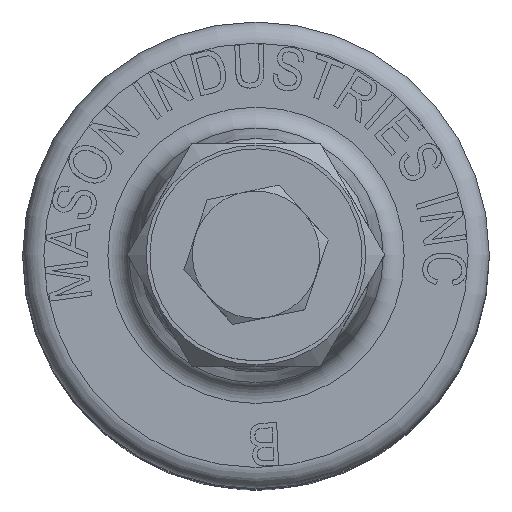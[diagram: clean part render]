
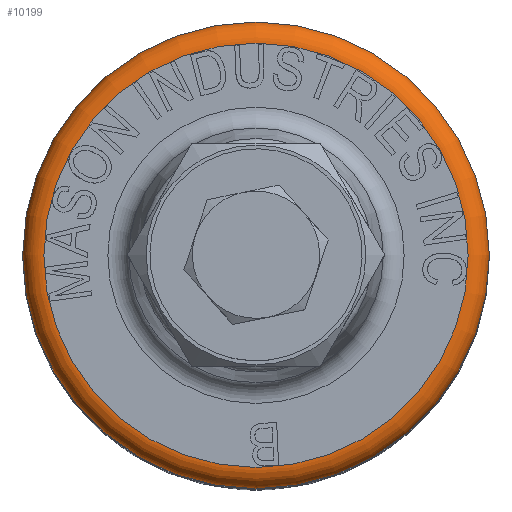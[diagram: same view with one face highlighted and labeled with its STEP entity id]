
A CAD part, top view. The second image highlights one B-rep face of the part: STEP entity #10199.
In plain terms, the highlighted toroidal (fillet/blend) face has major radius 31.75 mm and minor radius 3.175 mm.
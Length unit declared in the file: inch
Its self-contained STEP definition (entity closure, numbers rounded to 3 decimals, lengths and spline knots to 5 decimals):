
#122=TOROIDAL_SURFACE($,#10709,1.25,0.125);
#151=CIRCLE($,#10694,1.25);
#157=CIRCLE($,#10710,1.3743);
#476=FACE_OUTER_BOUND($,#1347,.T.);
#993=FACE_BOUND($,#1348,.T.);
#1347=EDGE_LOOP($,(#7947));
#1348=EDGE_LOOP($,(#7948));
#4596=VERTEX_POINT($,#16106);
#4602=VERTEX_POINT($,#16128);
#5807=EDGE_CURVE($,#4596,#4596,#151,.T.);
#5813=EDGE_CURVE($,#4602,#4602,#157,.T.);
#7947=ORIENTED_EDGE($,*,*,#5813,.F.);
#7948=ORIENTED_EDGE($,*,*,#5807,.T.);
#10199=ADVANCED_FACE($,(#476,#993),#122,.T.);
#10694=AXIS2_PLACEMENT_3D($,#16107,#11832,#11833);
#10709=AXIS2_PLACEMENT_3D($,#16127,#11862,#11863);
#10710=AXIS2_PLACEMENT_3D($,#16129,#11864,#11865);
#11832=DIRECTION('center_axis',(0.,0.,-1.));
#11833=DIRECTION('ref_axis',(-1.,0.,0.));
#11862=DIRECTION('center_axis',(0.,0.,-1.));
#11863=DIRECTION('ref_axis',(-1.,0.,0.));
#11864=DIRECTION('center_axis',(0.,0.,-1.));
#11865=DIRECTION('ref_axis',(-1.,0.,0.));
#16106=CARTESIAN_POINT('',(-1.25,0.,0.75));
#16107=CARTESIAN_POINT('Origin',(0.,0.,0.75));
#16127=CARTESIAN_POINT('Origin',(0.,0.,0.625));
#16128=CARTESIAN_POINT('',(-1.3743,0.,0.61175));
#16129=CARTESIAN_POINT('Origin',(0.,0.,0.61175));
